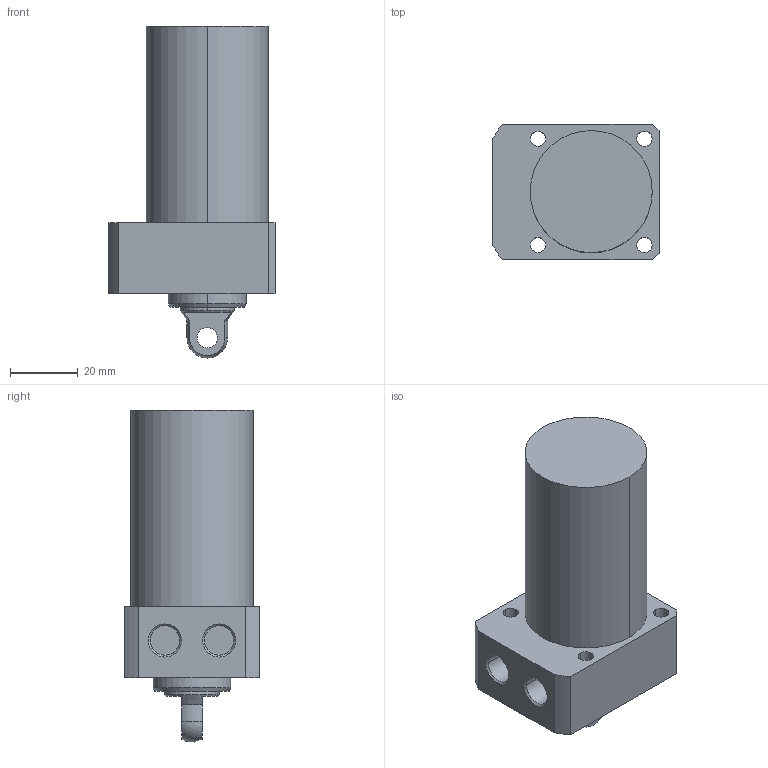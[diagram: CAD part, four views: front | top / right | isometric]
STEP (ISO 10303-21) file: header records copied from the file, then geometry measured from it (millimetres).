
FILE_DESCRIPTION((' '),'2;1');
FILE_NAME( 'TLLR-036CP-050.STEP.stp', '2025-10-24T16:35:49', (' '), ('--- Datakit www.datakit.com---'), ' Datakit CrossCadWare V2024.1 Dec 21 2023', 'Mastercam 2025', ' ');
FILE_SCHEMA(('AUTOMOTIVE_DESIGN { 1 0 10303 214 1 1 1 1 }'));
Length unit declared in the file: millimetre
Products named in the file (1): TLLR-036CP-050
Bounding box: 49 x 40 x 97.97 mm (x, y, z)
Volume: 99582 mm3; surface area: 16583.5 mm2
Topology: 1 solids, 1 shells, 55 faces, 157 edges, 111 vertices
Faces by surface type: cylinder 28, plane 18, cone 8, sphere 1
Entity records: 1924 total; most frequent: DIRECTION 360, CARTESIAN_POINT 336, ORIENTED_EDGE 314, EDGE_CURVE 157, AXIS2_PLACEMENT_3D 151, VERTEX_POINT 111, CIRCLE 95, EDGE_LOOP 72
